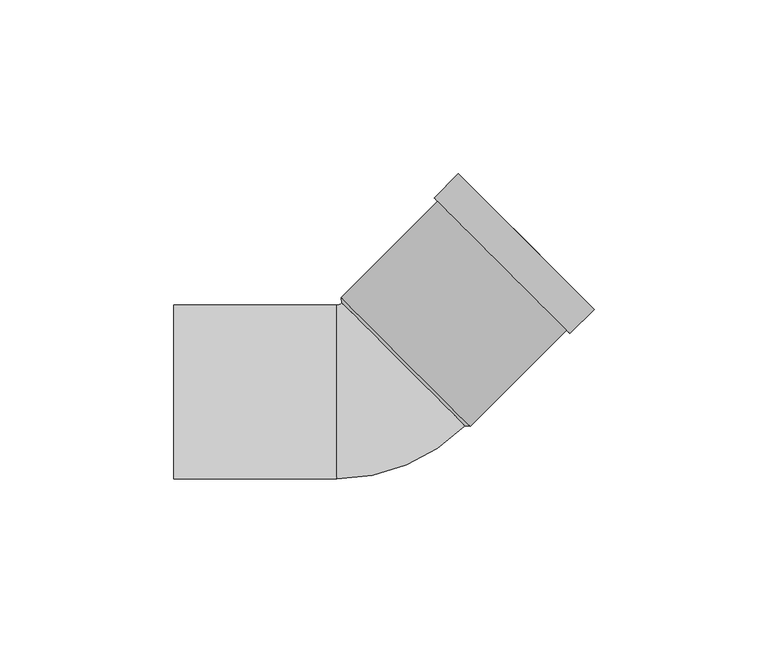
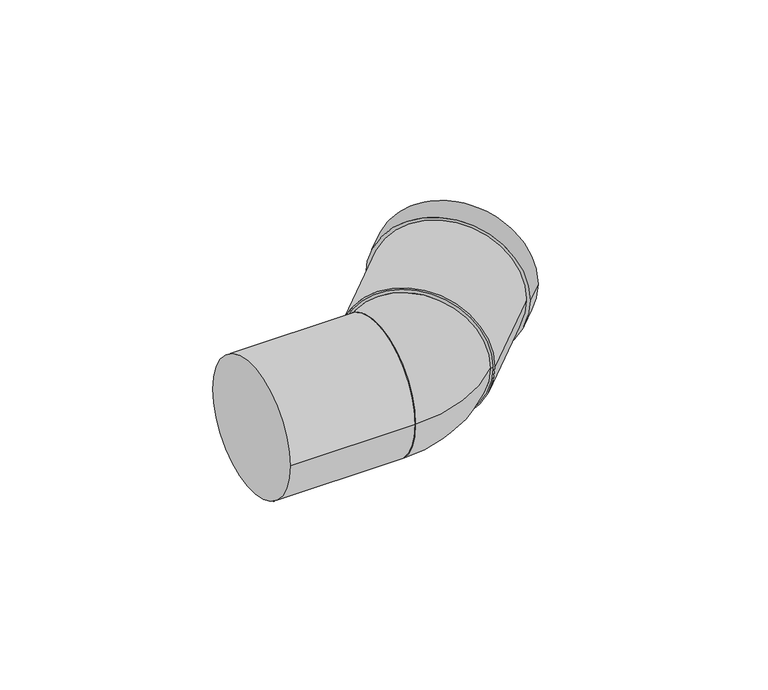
"""IFC4 building model written with IfcOpenShell, lengths in millimetres: pipe fitting geometry, Superdrain HT bend : Superdrain HT Bend."""

from ifc_helpers import new_model, si_unit, point, frame, origin, origin_2d, place, context, project, spatial, polyline, circle_curve, ellipse_curve, trimmed, segment, composite_curve, outline, extrude, source, transform, mapped, element, save
from ifc_brep_helpers import plane_surface, revolved_surface, advanced_brep


def pipe_fitting_a182db8e(model_context):
    return source(origin(), model_context, "Body", "SolidModel", [
        advanced_brep(
        [(25.5972655, -9.7580736, 0.0), (-9.7580736, 25.5972655, 0.0), (-11.2, -25.0, 0.0), (-11.2, 25.0, 0.0)],
        [
            (0, 1, circle_curve(frame((7.9195959, 7.9195959, 0.0), z_axis=(0.7071067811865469, 0.7071067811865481, 0.0), x_axis=(-0.7071067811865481, 0.7071067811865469, 0.0)), 25.0)),
            (1, 0, circle_curve(frame((7.9195959, 7.9195959, 0.0), z_axis=(0.707106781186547, 0.707106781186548, 0.0), x_axis=(-0.707106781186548, 0.707106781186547, 0.0)), 25.0)),
            (2, 3, circle_curve(frame((-11.2, 0.0, 0.0), z_axis=(-1.0, 0.0, 0.0), x_axis=(0.0, 1.0, 0.0)), 25.0)),
            (3, 2, circle_curve(frame((-11.2, 0.0, 0.0), z_axis=(-1.0, 0.0, 0.0), x_axis=(0.0, 1.0, 0.0)), 25.0)),
            (3, 1, circle_curve(frame((-11.2, 27.0391919, 0.0), z_axis=(0.0, 0.0, 1.0), x_axis=(1.0, 0.0, 0.0)), 2.0391919)),
            (0, 2, circle_curve(frame((-11.2, 27.0391919, 0.0), z_axis=(0.0, 0.0, -1.0), x_axis=(1.0, 0.0, 0.0)), 52.0391919)),
        ],
        [
            plane_surface(frame((7.9195959, 7.9195959, 0.0), z_axis=(0.707106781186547, 0.7071067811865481, 0.0), x_axis=(0.0, 0.0, -1.0))),
            plane_surface(frame((-11.2, 0.0, 0.0), z_axis=(-1.0, 0.0, 0.0), x_axis=(0.0, 0.0, -1.0))),
            revolved_surface(trimmed(ellipse_curve(frame((15.8391919, 27.0391919, 0.0), z_axis=(0.0, -1.0, 0.0), x_axis=(-1.0, 0.0, 0.0)), 25.0, 25.0), [point((-9.1608081, 27.0391919, 0.0))], [point((40.8391919, 27.0391919, 0.0))], True, "CARTESIAN"), (-11.2, 27.0391919, 0.0), (0.0, 0.0, 1.0)),
            revolved_surface(trimmed(ellipse_curve(frame((15.8391919, 27.0391919, 0.0), z_axis=(0.0, -1.0, 0.0), x_axis=(-1.0, 0.0, 0.0)), 25.0, 25.0), [point((40.8391919, 27.0391919, 0.0))], [point((-9.1608081, 27.0391919, 0.0))], True, "CARTESIAN"), (-11.2, 27.0391919, 0.0), (0.0, 0.0, 1.0)),
        ],
        [
            (0, [[1, 2]]),
            (1, [[3, 4]]),
            (2, [[-4, 5, -1, 6]]),
            (3, [[-3, -6, -2, -5]]),
        ],
    ),
        extrude(outline(composite_curve([segment(trimmed(circle_curve(origin_2d(), 26.25), [point((0.0, 26.25))], [point((0.0, -26.25))], False, "CARTESIAN"), True, "CONTINUOUS"), segment(trimmed(circle_curve(origin_2d(), 26.25), [point((0.0, -26.25))], [point((0.0, 26.25))], False, "CARTESIAN"), True, "CONTINUOUS")], self_intersect=False), holes=[composite_curve([segment(trimmed(circle_curve(origin_2d(), 25.0), [point((0.0, 25.0))], [point((0.0, -25.0))], True, "CARTESIAN"), True, "CONTINUOUS"), segment(trimmed(circle_curve(origin_2d(), 25.0), [point((0.0, -25.0))], [point((0.0, 25.0))], True, "CARTESIAN"), True, "CONTINUOUS")], self_intersect=False)]), frame((8.6267027, 8.6267027, 0.0), z_axis=(0.7071067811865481, 0.7071067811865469, 0.0), x_axis=(0.0, 0.0, 1.0)), (0.0, 0.0, 1.0), 49.0),
        extrude(outline(composite_curve([segment(trimmed(circle_curve(origin_2d(), 27.5625), [point((0.0, -27.5625))], [point((0.0, 27.5625))], False, "CARTESIAN"), True, "CONTINUOUS"), segment(trimmed(circle_curve(origin_2d(), 27.5625), [point((0.0, 27.5625))], [point((0.0, -27.5625))], False, "CARTESIAN"), True, "CONTINUOUS")], self_intersect=False), holes=[composite_curve([segment(trimmed(circle_curve(origin_2d(), 25.0), [point((0.0, -25.0))], [point((0.0, 25.0))], True, "CARTESIAN"), True, "CONTINUOUS"), segment(trimmed(circle_curve(origin_2d(), 25.0), [point((0.0, 25.0))], [point((0.0, -25.0))], True, "CARTESIAN"), True, "CONTINUOUS")], self_intersect=False)]), frame((36.3452886, 36.3452886, 0.0), z_axis=(0.7071067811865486, 0.7071067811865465, 0.0), x_axis=(0.0, 0.0, 1.0)), (0.0, 0.0, 1.0), 9.8),
        advanced_brep(
        [(27.1882557, -9.9348503, 0.0), (-9.9348503, 27.1882557, 0.0), (25.5972655, -9.7580736, 0.0), (-9.7580736, 25.5972655, 0.0)],
        [
            (0, 1, circle_curve(frame((8.6267027, 8.6267027, 0.0), z_axis=(0.7071067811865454, 0.7071067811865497, 0.0), x_axis=(0.7071067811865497, -0.7071067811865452, 0.0)), 26.25)),
            (1, 0, circle_curve(frame((8.6267027, 8.6267027, 0.0), z_axis=(0.7071067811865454, 0.7071067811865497, 0.0), x_axis=(-0.7071067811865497, 0.7071067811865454, 0.0)), 26.25)),
            (2, 3, circle_curve(frame((7.9195959, 7.9195959, 0.0), z_axis=(-0.7071067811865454, -0.7071067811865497, 0.0), x_axis=(-0.7071067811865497, 0.7071067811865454, 0.0)), 25.0)),
            (3, 2, circle_curve(frame((7.9195959, 7.9195959, 0.0), z_axis=(-0.7071067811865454, -0.7071067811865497, 0.0), x_axis=(0.7071067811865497, -0.7071067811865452, 0.0)), 25.0)),
            (3, 1),
            (0, 2),
        ],
        [
            plane_surface(frame((8.6267027, 8.6267027, 0.0), z_axis=(0.7071067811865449, 0.7071067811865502, 0.0), x_axis=(0.0, 0.0, -1.0))),
            plane_surface(frame((7.9195959, 7.9195959, 0.0), z_axis=(-0.7071067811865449, -0.7071067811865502, 0.0), x_axis=(0.0, 0.0, -1.0))),
            revolved_surface(polyline([(-9.758073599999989, 25.597265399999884, 0.0), (-9.9348503, 27.1882557, 0.0)]), (-6.2225397, -6.2225397, 0.0), (0.7071067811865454, 0.7071067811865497, 0.0)),
            revolved_surface(polyline([(25.59726540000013, -9.758073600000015, 0.0), (27.188255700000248, -9.93485030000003, 0.0)]), (-6.2225397, -6.2225397, 0.0), (0.7071067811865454, 0.7071067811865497, 0.0)),
        ],
        [
            (0, [[1, 2]]),
            (1, [[3, 4]]),
            (2, [[-4, 5, -1, 6]]),
            (3, [[-3, -6, -2, -5]]),
        ],
    ),
        extrude(outline(composite_curve([segment(trimmed(circle_curve(origin_2d(), 25.0), [point((-25.0, 0.0))], [point((25.0, 0.0))], False, "CARTESIAN"), True, "CONTINUOUS"), segment(trimmed(circle_curve(origin_2d(), 25.0), [point((25.0, 0.0))], [point((-25.0, 0.0))], False, "CARTESIAN"), True, "CONTINUOUS")], self_intersect=False)), frame((-58.0, 0.0, 0.0), z_axis=(1.0, 0.0, 0.0), x_axis=(0.0, 1.0, 0.0)), (0.0, 0.0, 1.0), 46.8),
    ])


if __name__ == "__main__":
    model = new_model("IFC4")
    model_context = context("Model", 3, world=origin())
    ifc_project = project(units=[si_unit("LENGTHUNIT", "METRE", prefix="MILLI")], contexts=[model_context])
    site = spatial("IfcSite", under=ifc_project)
    building = spatial("IfcBuilding", under=site)
    placement = place(None, origin())
    pipe_fitting_shape = pipe_fitting_a182db8e(model_context)
    element("IfcPipeFitting", 1, ObjectType="Superdrain HT bend : Superdrain HT Bend", at=placement, inside=building, context=model_context, shape_type="MappedRepresentation", body=[
        mapped(pipe_fitting_shape, transform((0.0, 0.0, 0.0), x_axis=(1.0, 0.0, 0.0), y_axis=(0.0, 1.0, 0.0), z_axis=(0.0, 0.0, 1.0))),
    ])
    save(model, "model.ifc")
